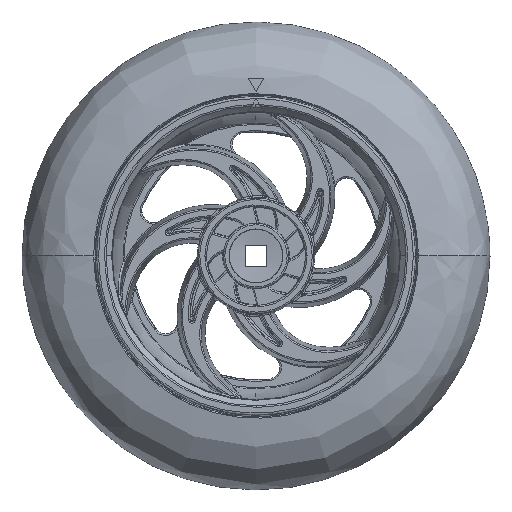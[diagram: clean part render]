
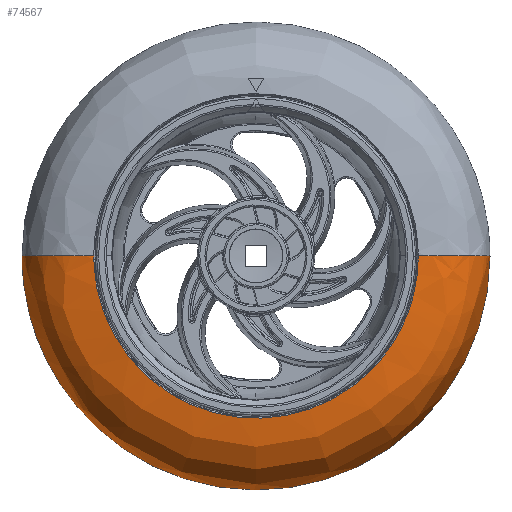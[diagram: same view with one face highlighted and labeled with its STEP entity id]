
A CAD part, top view. The second image highlights one B-rep face of the part: STEP entity #74567.
In plain terms, the highlighted free-form (B-spline) face has degree [3, 3] with [7, 4] control points.
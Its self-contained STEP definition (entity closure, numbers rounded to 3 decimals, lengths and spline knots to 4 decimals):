
#74561 = ORIENTED_EDGE ( 'NONE', *, *, #74562, .F. ) ;
#74562 = EDGE_CURVE ( 'NONE', #74674, #74592, #84401, .T. ) ;
#74564 = ORIENTED_EDGE ( 'NONE', *, *, #74663, .T. ) ;
#74567 = ADVANCED_FACE ( 'NONE', ( #84400 ), #84488, .F. ) ;
#74569 = EDGE_CURVE ( 'NONE', #74672, #74670, #84449, .T. ) ;
#74571 = ORIENTED_EDGE ( 'NONE', *, *, #74573, .F. ) ;
#74573 = EDGE_CURVE ( 'NONE', #74592, #74672, #84178, .T. ) ;
#74592 = VERTEX_POINT ( 'NONE', #84595 ) ;
#74663 = EDGE_CURVE ( 'NONE', #74674, #74665, #84751, .T. ) ;
#74665 = VERTEX_POINT ( 'NONE', #84752 ) ;
#74667 = ORIENTED_EDGE ( 'NONE', *, *, #74669, .F. ) ;
#74669 = EDGE_CURVE ( 'NONE', #74670, #74665, #84732, .T. ) ;
#74670 = VERTEX_POINT ( 'NONE', #84750 ) ;
#74671 = ORIENTED_EDGE ( 'NONE', *, *, #74569, .F. ) ;
#74672 = VERTEX_POINT ( 'NONE', #84749 ) ;
#74674 = VERTEX_POINT ( 'NONE', #84721 ) ;
#74675 = EDGE_LOOP ( 'NONE', ( #74561, #74564, #74667, #74671, #74571 ) ) ;
#82600 = CARTESIAN_POINT ( 'NONE',  ( -1.0183, 0.3813, 0. ) ) ;
#83201 = CARTESIAN_POINT ( 'NONE',  ( -0.9538, 0.3819, 0. ) ) ;
#84172 = CARTESIAN_POINT ( 'NONE',  ( -1.1315, 0.3607, 0. ) ) ;
#84174 = CARTESIAN_POINT ( 'NONE',  ( -1.2607, 0.2873, 0. ) ) ;
#84175 = CARTESIAN_POINT ( 'NONE',  ( -1.3484, 0.1724, 0. ) ) ;
#84176 = CARTESIAN_POINT ( 'NONE',  ( -1.3751, 0.0652, 0. ) ) ;
#84177 = CARTESIAN_POINT ( 'NONE',  ( -1.375, 0., 0. ) ) ;
#84178 = B_SPLINE_CURVE_WITH_KNOTS ( 'NONE', 3,
 ( #84177, #84176, #84175, #84174, #84172, #82600, #83201 ),
 .UNSPECIFIED., .F., .F.,
 ( 4, 1, 1, 1, 4 ),
 ( 0.0133, 0.25, 0.5, 0.75, 0.9864 ),
 .UNSPECIFIED. ) ;
#84390 = CARTESIAN_POINT ( 'NONE',  ( -1.375, 0., 2.75 ) ) ;
#84391 = CARTESIAN_POINT ( 'NONE',  ( -1.375, 0., 0. ) ) ;
#84392 = CARTESIAN_POINT ( 'NONE',  ( -1.375, 0., 0. ) ) ;
#84393 = CARTESIAN_POINT ( 'NONE',  ( -1.375, 0., 2.75 ) ) ;
#84394 = CARTESIAN_POINT ( 'NONE',  ( 1.375, 0., 2.75 ) ) ;
#84395 = CARTESIAN_POINT ( 'NONE',  ( 1.375, 0., 0. ) ) ;
#84400 = FACE_OUTER_BOUND ( 'NONE', #74675, .T. ) ;
#84401 =( BOUNDED_CURVE ( )  B_SPLINE_CURVE ( 3, ( #84395, #84394, #84393, #84392 ),
 .UNSPECIFIED., .F., .F. ) 
 B_SPLINE_CURVE_WITH_KNOTS ( ( 4, 4 ),
 ( 0., 1. ),
 .UNSPECIFIED. ) 
 CURVE ( )  GEOMETRIC_REPRESENTATION_ITEM ( )  RATIONAL_B_SPLINE_CURVE ( ( 1., 0.333, 0.333, 1. ) ) 
 REPRESENTATION_ITEM ( '' )  );
#84418 = CARTESIAN_POINT ( 'NONE',  ( 1.3751, 0.0652, 0. ) ) ;
#84419 = CARTESIAN_POINT ( 'NONE',  ( 1.3751, 0.0652, 2.7502 ) ) ;
#84420 = CARTESIAN_POINT ( 'NONE',  ( -1.3751, 0.0652, 2.7502 ) ) ;
#84421 = CARTESIAN_POINT ( 'NONE',  ( -1.3751, 0.0652, 0. ) ) ;
#84422 = CARTESIAN_POINT ( 'NONE',  ( 1.375, 0., 0. ) ) ;
#84424 = CARTESIAN_POINT ( 'NONE',  ( 1.375, 0., 2.75 ) ) ;
#84433 = CARTESIAN_POINT ( 'NONE',  ( -0.9535, 0.3819, 0.0229 ) ) ;
#84435 = CARTESIAN_POINT ( 'NONE',  ( -0.9537, 0.3819, 0.0153 ) ) ;
#84437 = CARTESIAN_POINT ( 'NONE',  ( -0.9538, 0.3819, 0.0076 ) ) ;
#84449 =( BOUNDED_CURVE ( )  B_SPLINE_CURVE ( 3, ( #84452, #84437, #84435, #84433 ),
 .UNSPECIFIED., .F., .F. ) 
 B_SPLINE_CURVE_WITH_KNOTS ( ( 4, 4 ),
 ( 0., 0.0076 ),
 .UNSPECIFIED. ) 
 CURVE ( )  GEOMETRIC_REPRESENTATION_ITEM ( )  RATIONAL_B_SPLINE_CURVE ( ( 1., 1., 1., 1. ) ) 
 REPRESENTATION_ITEM ( '' )  );
#84452 = CARTESIAN_POINT ( 'NONE',  ( -0.9538, 0.3819, 0. ) ) ;
#84453 = CARTESIAN_POINT ( 'NONE',  ( 0.9538, 0.3819, 0. ) ) ;
#84455 = CARTESIAN_POINT ( 'NONE',  ( 0.9538, 0.3819, 1.9076 ) ) ;
#84457 = CARTESIAN_POINT ( 'NONE',  ( -0.9538, 0.3819, 1.9076 ) ) ;
#84459 = CARTESIAN_POINT ( 'NONE',  ( -0.9538, 0.3819, 0. ) ) ;
#84461 = CARTESIAN_POINT ( 'NONE',  ( 1.0183, 0.3813, 0. ) ) ;
#84462 = CARTESIAN_POINT ( 'NONE',  ( 1.0183, 0.3813, 2.0366 ) ) ;
#84463 = CARTESIAN_POINT ( 'NONE',  ( -1.0183, 0.3813, 2.0366 ) ) ;
#84464 = CARTESIAN_POINT ( 'NONE',  ( -1.0183, 0.3813, 0. ) ) ;
#84466 = CARTESIAN_POINT ( 'NONE',  ( 1.1315, 0.3607, 0. ) ) ;
#84467 = CARTESIAN_POINT ( 'NONE',  ( 1.1315, 0.3607, 2.263 ) ) ;
#84469 = CARTESIAN_POINT ( 'NONE',  ( -1.1315, 0.3607, 2.263 ) ) ;
#84471 = CARTESIAN_POINT ( 'NONE',  ( -1.1315, 0.3607, 0. ) ) ;
#84474 = CARTESIAN_POINT ( 'NONE',  ( 1.2607, 0.2873, 0. ) ) ;
#84476 = CARTESIAN_POINT ( 'NONE',  ( 1.2607, 0.2873, 2.5214 ) ) ;
#84478 = CARTESIAN_POINT ( 'NONE',  ( -1.2607, 0.2873, 2.5214 ) ) ;
#84480 = CARTESIAN_POINT ( 'NONE',  ( -1.2607, 0.2873, 0. ) ) ;
#84481 = CARTESIAN_POINT ( 'NONE',  ( 1.3484, 0.1724, 0. ) ) ;
#84482 = CARTESIAN_POINT ( 'NONE',  ( 1.3484, 0.1724, 2.6967 ) ) ;
#84483 = CARTESIAN_POINT ( 'NONE',  ( -1.3484, 0.1724, 2.6967 ) ) ;
#84484 = CARTESIAN_POINT ( 'NONE',  ( -1.3484, 0.1724, 0. ) ) ;
#84488 =( BOUNDED_SURFACE ( )  B_SPLINE_SURFACE ( 3, 3, ( 
 ( #84391, #84390, #84424, #84422 ),
 ( #84421, #84420, #84419, #84418 ),
 ( #84484, #84483, #84482, #84481 ),
 ( #84480, #84478, #84476, #84474 ),
 ( #84471, #84469, #84467, #84466 ),
 ( #84464, #84463, #84462, #84461 ),
 ( #84459, #84457, #84455, #84453 ) ),
 .UNSPECIFIED., .F., .F., .T. ) 
 B_SPLINE_SURFACE_WITH_KNOTS ( ( 4, 1, 1, 1, 4 ),
 ( 4, 4 ),
 ( 0.0133, 0.25, 0.5, 0.75, 0.9864 ),
 ( 0., 1. ),
 .UNSPECIFIED. ) 
 GEOMETRIC_REPRESENTATION_ITEM ( )  RATIONAL_B_SPLINE_SURFACE ( (
 ( 1., 0.333, 0.333, 1.),
 ( 1., 0.333, 0.333, 1.),
 ( 1., 0.333, 0.333, 1.),
 ( 1., 0.333, 0.333, 1.),
 ( 1., 0.333, 0.333, 1.),
 ( 1., 0.333, 0.333, 1.),
 ( 1., 0.333, 0.333, 1.) ) ) 
 REPRESENTATION_ITEM ( '' )  SURFACE ( )  );
#84595 = CARTESIAN_POINT ( 'NONE',  ( -1.375, 0., 0. ) ) ;
#84721 = CARTESIAN_POINT ( 'NONE',  ( 1.375, 0., 0. ) ) ;
#84722 = CARTESIAN_POINT ( 'NONE',  ( 0.9538, 0.3819, 0. ) ) ;
#84723 = CARTESIAN_POINT ( 'NONE',  ( 0.9538, 0.3819, 1.8628 ) ) ;
#84724 = CARTESIAN_POINT ( 'NONE',  ( -0.9088, 0.3819, 1.8851 ) ) ;
#84725 = CARTESIAN_POINT ( 'NONE',  ( -0.9535, 0.3819, 0.0229 ) ) ;
#84732 =( BOUNDED_CURVE ( )  B_SPLINE_CURVE ( 3, ( #84725, #84724, #84723, #84722 ),
 .UNSPECIFIED., .F., .T. ) 
 B_SPLINE_CURVE_WITH_KNOTS ( ( 4, 4 ),
 ( 0.0076, 1. ),
 .UNSPECIFIED. ) 
 CURVE ( )  GEOMETRIC_REPRESENTATION_ITEM ( )  RATIONAL_B_SPLINE_CURVE ( ( 1., 0.341, 0.341, 1. ) ) 
 REPRESENTATION_ITEM ( '' )  );
#84736 = CARTESIAN_POINT ( 'NONE',  ( 0.9538, 0.3819, 0. ) ) ;
#84738 = CARTESIAN_POINT ( 'NONE',  ( 1.0183, 0.3813, 0. ) ) ;
#84739 = CARTESIAN_POINT ( 'NONE',  ( 1.1315, 0.3607, 0. ) ) ;
#84741 = CARTESIAN_POINT ( 'NONE',  ( 1.2607, 0.2873, 0. ) ) ;
#84743 = CARTESIAN_POINT ( 'NONE',  ( 1.3484, 0.1724, 0. ) ) ;
#84745 = CARTESIAN_POINT ( 'NONE',  ( 1.3751, 0.0652, 0. ) ) ;
#84747 = CARTESIAN_POINT ( 'NONE',  ( 1.375, 0., 0. ) ) ;
#84749 = CARTESIAN_POINT ( 'NONE',  ( -0.9538, 0.3819, 0. ) ) ;
#84750 = CARTESIAN_POINT ( 'NONE',  ( -0.9535, 0.3819, 0.0229 ) ) ;
#84751 = B_SPLINE_CURVE_WITH_KNOTS ( 'NONE', 3,
 ( #84747, #84745, #84743, #84741, #84739, #84738, #84736 ),
 .UNSPECIFIED., .F., .F.,
 ( 4, 1, 1, 1, 4 ),
 ( 0.0133, 0.25, 0.5, 0.75, 0.9864 ),
 .UNSPECIFIED. ) ;
#84752 = CARTESIAN_POINT ( 'NONE',  ( 0.9538, 0.3819, 0. ) ) ;
